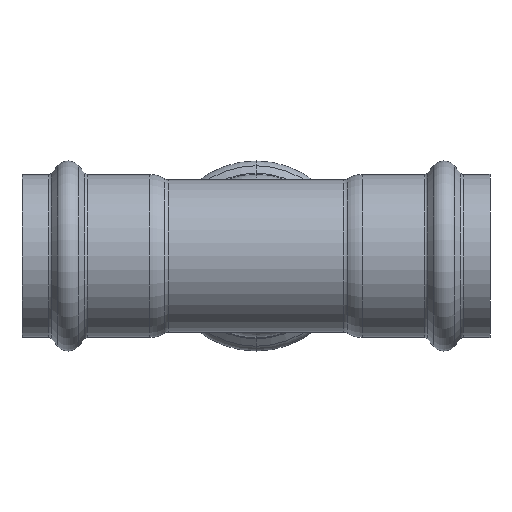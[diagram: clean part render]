
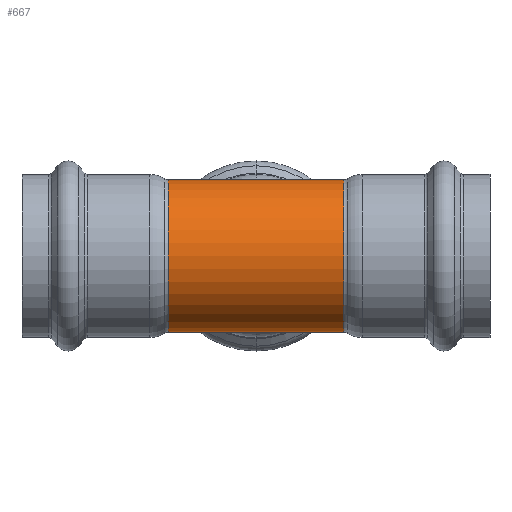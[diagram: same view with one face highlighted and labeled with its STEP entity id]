
A CAD part, front view. The second image highlights one B-rep face of the part: STEP entity #667.
In plain terms, the highlighted cylindrical face has radius 21.5 mm (diameter 43 mm), a partial arc.
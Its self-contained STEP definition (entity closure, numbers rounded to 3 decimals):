
#125 = VERTEX_POINT ( 'NONE', #1589 ) ;
#227 = CARTESIAN_POINT ( 'NONE',  ( 24.789, 0., 0. ) ) ;
#551 = CIRCLE ( 'NONE', #1397, 21.5 ) ;
#659 = DIRECTION ( 'NONE',  ( 0., 0., 1. ) ) ;
#667 = ADVANCED_FACE ( 'NONE', ( #4631 ), #4494, .T. ) ;
#752 = CARTESIAN_POINT ( 'NONE',  ( -17.486, 0., -21.5 ) ) ;
#969 = EDGE_CURVE ( 'NONE', #3229, #4435, #2827, .T. ) ;
#1202 = CARTESIAN_POINT ( 'NONE',  ( 24.789, 0., 21.5 ) ) ;
#1290 = AXIS2_PLACEMENT_3D ( 'NONE', #227, #3240, #659 ) ;
#1302 = DIRECTION ( 'NONE',  ( -1., 0., 0. ) ) ;
#1370 = ORIENTED_EDGE ( 'NONE', *, *, #3014, .F. ) ;
#1397 = AXIS2_PLACEMENT_3D ( 'NONE', #3861, #1302, #4291 ) ;
#1589 = CARTESIAN_POINT ( 'NONE',  ( -24.789, 0., -21.5 ) ) ;
#1623 = DIRECTION ( 'NONE',  ( -1., 0., 0. ) ) ;
#1876 = EDGE_CURVE ( 'NONE', #3128, #3229, #2720, .T. ) ;
#2193 = VECTOR ( 'NONE', #2899, 1000. ) ;
#2541 = AXIS2_PLACEMENT_3D ( 'NONE', #4597, #1623, #3758 ) ;
#2720 = CIRCLE ( 'NONE', #1290, 21.5 ) ;
#2827 = LINE ( 'NONE', #4440, #4965 ) ;
#2899 = DIRECTION ( 'NONE',  ( -1., 0., 0. ) ) ;
#2918 = ORIENTED_EDGE ( 'NONE', *, *, #969, .T. ) ;
#3014 = EDGE_CURVE ( 'NONE', #125, #4435, #551, .T. ) ;
#3128 = VERTEX_POINT ( 'NONE', #3923 ) ;
#3217 = EDGE_CURVE ( 'NONE', #3128, #125, #5463, .T. ) ;
#3229 = VERTEX_POINT ( 'NONE', #1202 ) ;
#3240 = DIRECTION ( 'NONE',  ( -1., 0., 0. ) ) ;
#3758 = DIRECTION ( 'NONE',  ( 0., 0., 1. ) ) ;
#3861 = CARTESIAN_POINT ( 'NONE',  ( -24.789, 0., 0. ) ) ;
#3923 = CARTESIAN_POINT ( 'NONE',  ( 24.789, 0., -21.5 ) ) ;
#4136 = EDGE_LOOP ( 'NONE', ( #5191, #4725, #2918, #1370 ) ) ;
#4291 = DIRECTION ( 'NONE',  ( 0., 0., 1. ) ) ;
#4435 = VERTEX_POINT ( 'NONE', #5545 ) ;
#4440 = CARTESIAN_POINT ( 'NONE',  ( -17.486, 0., 21.5 ) ) ;
#4494 = CYLINDRICAL_SURFACE ( 'NONE', #2541, 21.5 ) ;
#4597 = CARTESIAN_POINT ( 'NONE',  ( -17.486, 0., 0. ) ) ;
#4631 = FACE_OUTER_BOUND ( 'NONE', #4136, .T. ) ;
#4725 = ORIENTED_EDGE ( 'NONE', *, *, #1876, .T. ) ;
#4965 = VECTOR ( 'NONE', #5259, 1000. ) ;
#5191 = ORIENTED_EDGE ( 'NONE', *, *, #3217, .F. ) ;
#5259 = DIRECTION ( 'NONE',  ( -1., 0., 0. ) ) ;
#5463 = LINE ( 'NONE', #752, #2193 ) ;
#5545 = CARTESIAN_POINT ( 'NONE',  ( -24.789, 0., 21.5 ) ) ;
